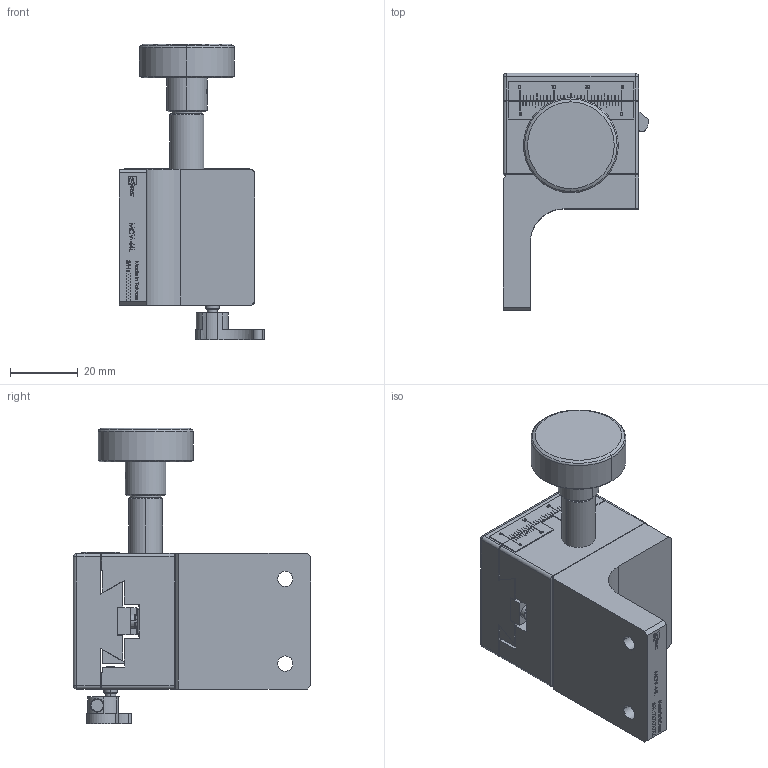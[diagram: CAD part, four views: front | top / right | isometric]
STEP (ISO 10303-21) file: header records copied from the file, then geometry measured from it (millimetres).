
FILE_DESCRIPTION (( 'STEP AP203' ), '1' );
FILE_NAME ('MCV-44L(«¬¿ý).STEP', '2013-10-02T05:36:53', ( '' ), ( '' ), 'SwSTEP 2.0', 'SolidWorks 2013', '' );
FILE_SCHEMA (( 'CONFIG_CONTROL_DESIGN' ));
Length unit declared in the file: millimetre
Products named in the file (3): Group2^MCV-44L(型錄); Group1^MCV-44L(型錄); MCV-44L(型錄)
Assembly tree (2 placements, depth 2):
  MCV-44L(型錄)
    Group2^MCV-44L(型錄)
    Group1^MCV-44L(型錄)
Bounding box: 43.02 x 70 x 87.3 mm (x, y, z)
Volume: 80986.3 mm3; surface area: 23193.9 mm2
Topology: 2 solids, 2 shells, 1156 faces, 3094 edges, 2017 vertices
Faces by surface type: plane 786, bspline 167, cylinder 131, cone 54, torus 10, sphere 8
Entity records: 46162 total; most frequent: CARTESIAN_POINT 17956, ORIENTED_EDGE 6172, DIRECTION 5067, EDGE_CURVE 3086, VECTOR 2295, LINE 2295, VERTEX_POINT 2017, AXIS2_PLACEMENT_3D 1386
